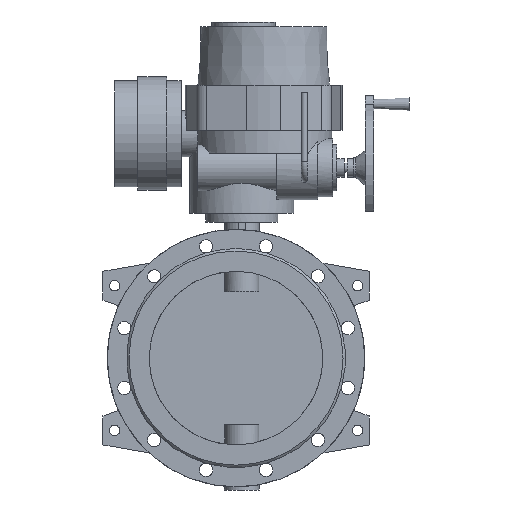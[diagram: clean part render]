
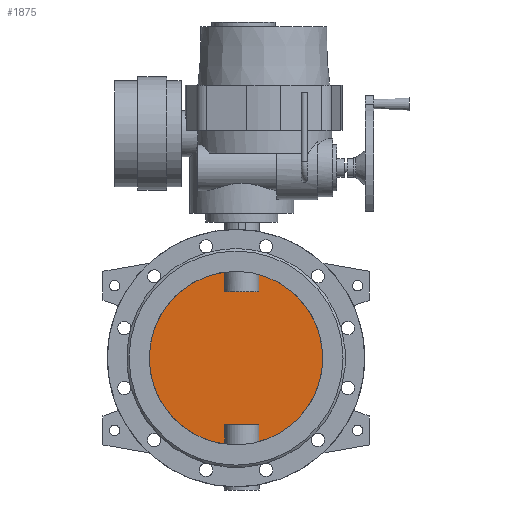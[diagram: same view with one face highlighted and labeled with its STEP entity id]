
A CAD part, front view. The second image highlights one B-rep face of the part: STEP entity #1875.
In plain terms, the highlighted planar face has unit normal (0, -1, 0).
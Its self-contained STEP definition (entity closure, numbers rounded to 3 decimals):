
#1875=ADVANCED_FACE('',(#3891),#3893,.F.);
#3891=FACE_BOUND('',#3892,.T.);
#3892=EDGE_LOOP('',(#5246,#5247,#5248,#5249,#5250,#5251,#5252,#5253));
#3893=PLANE('',#3894);
#3894=AXIS2_PLACEMENT_3D('',#3895,#3896,#3897);
#3895=CARTESIAN_POINT('',(0.,-5.,0.));
#3896=DIRECTION('',(0.,1.,0.));
#3897=DIRECTION('',(1.,0.,0.));
#5246=ORIENTED_EDGE('',*,*,#5925,.T.);
#5247=ORIENTED_EDGE('',*,*,#5933,.T.);
#5248=ORIENTED_EDGE('',*,*,#5934,.T.);
#5249=ORIENTED_EDGE('',*,*,#5935,.T.);
#5250=ORIENTED_EDGE('',*,*,#5927,.T.);
#5251=ORIENTED_EDGE('',*,*,#5936,.T.);
#5252=ORIENTED_EDGE('',*,*,#5937,.T.);
#5253=ORIENTED_EDGE('',*,*,#5938,.T.);
#5925=EDGE_CURVE('',#6921,#6922,#6923,.F.);
#5927=EDGE_CURVE('',#6926,#6924,#6927,.F.);
#5933=EDGE_CURVE('',#6922,#6937,#6938,.T.);
#5934=EDGE_CURVE('',#6937,#6939,#6940,.F.);
#5935=EDGE_CURVE('',#6939,#6926,#6941,.F.);
#5936=EDGE_CURVE('',#6924,#6942,#6943,.F.);
#5937=EDGE_CURVE('',#6942,#6944,#6945,.F.);
#5938=EDGE_CURVE('',#6944,#6921,#6946,.T.);
#6921=VERTEX_POINT('',#11716);
#6922=VERTEX_POINT('',#11717);
#6923=CIRCLE('',#11718,150.);
#6924=VERTEX_POINT('',#11722);
#6926=VERTEX_POINT('',#11828);
#6927=CIRCLE('',#11829,150.);
#6937=VERTEX_POINT('',#11970);
#6938=LINE('',#11971,#11972);
#6939=VERTEX_POINT('',#11974);
#6940=LINE('',#11975,#11976);
#6941=LINE('',#11978,#11979);
#6942=VERTEX_POINT('',#11981);
#6943=LINE('',#11982,#11983);
#6944=VERTEX_POINT('',#11985);
#6945=LINE('',#11986,#11987);
#6946=LINE('',#11989,#11990);
#11716=CARTESIAN_POINT('',(39.58,-5.,-144.684));
#11717=CARTESIAN_POINT('',(39.58,-5.,144.684));
#11718=AXIS2_PLACEMENT_3D('',#11719,#11720,#11721);
#11719=CARTESIAN_POINT('',(0.,-5.,0.));
#11720=DIRECTION('',(0.,1.,0.));
#11721=DIRECTION('',(0.264,0.,0.965));
#11722=CARTESIAN_POINT('',(-19.58,-5.,-148.717));
#11828=CARTESIAN_POINT('',(-19.58,-5.,148.717));
#11829=AXIS2_PLACEMENT_3D('',#11830,#11831,#11832);
#11830=CARTESIAN_POINT('',(0.,-5.,0.));
#11831=DIRECTION('',(0.,1.,0.));
#11832=DIRECTION('',(-0.131,0.,-0.991));
#11970=CARTESIAN_POINT('',(39.58,-5.,115.));
#11971=CARTESIAN_POINT('',(39.58,-5.,144.684));
#11972=VECTOR('',#11973,1.);
#11973=DIRECTION('',(0.,0.,-1.));
#11974=CARTESIAN_POINT('',(-19.58,-5.,115.));
#11975=CARTESIAN_POINT('',(-19.58,-5.,115.));
#11976=VECTOR('',#11977,1.);
#11977=DIRECTION('',(1.,0.,0.));
#11978=CARTESIAN_POINT('',(-19.58,-5.,148.717));
#11979=VECTOR('',#11980,1.);
#11980=DIRECTION('',(0.,0.,-1.));
#11981=CARTESIAN_POINT('',(-19.58,-5.,-115.));
#11982=CARTESIAN_POINT('',(-19.58,-5.,-115.));
#11983=VECTOR('',#11984,1.);
#11984=DIRECTION('',(0.,0.,-1.));
#11985=CARTESIAN_POINT('',(39.58,-5.,-115.));
#11986=CARTESIAN_POINT('',(39.58,-5.,-115.));
#11987=VECTOR('',#11988,1.);
#11988=DIRECTION('',(-1.,0.,0.));
#11989=CARTESIAN_POINT('',(39.58,-5.,-115.));
#11990=VECTOR('',#11991,1.);
#11991=DIRECTION('',(0.,0.,-1.));
